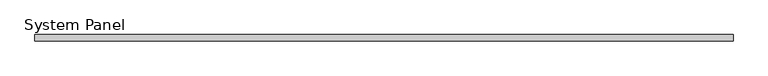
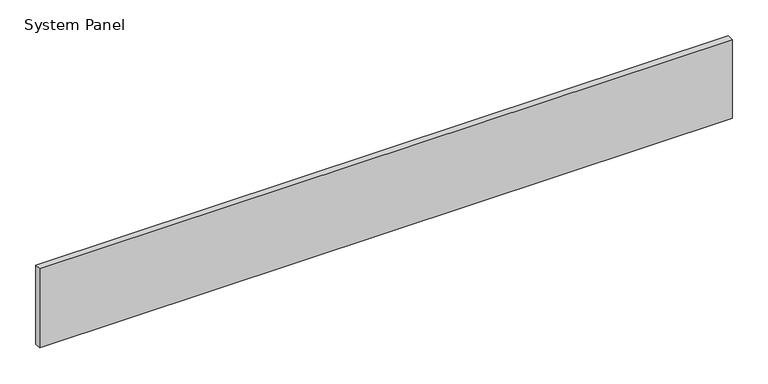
"""IFC4 building model written with IfcOpenShell, lengths in millimetres: plate geometry, System Panel : VACÍO."""

from ifc_helpers import new_model, si_unit, origin, origin_with_axes, place, context, project, spatial, polyline, outline, extrude, source, transform, mapped, element, save


def system_panel_9483af97(model_context):
    return source(origin(), model_context, "Body", "SweptSolid", [
        extrude(outline(polyline([(556.1350437, -5.0), (-556.1350437, -5.0), (-556.1350437, 5.0), (556.1350437, 5.0), (556.1350437, -5.0)])), origin_with_axes(), (0.0, 0.0, 1.0), 134.033564),
    ])


if __name__ == "__main__":
    model = new_model("IFC4")
    model_context = context("Model", 3, world=origin())
    ifc_project = project(units=[si_unit("LENGTHUNIT", "METRE", prefix="MILLI")], contexts=[model_context])
    site = spatial("IfcSite", under=ifc_project)
    building = spatial("IfcBuilding", under=site)
    placement = place(None, origin())
    system_panel_shape = system_panel_9483af97(model_context)
    element("IfcPlate", 1, ObjectType="System Panel : VACÍO", at=placement, inside=building, context=model_context, shape_type="MappedRepresentation", body=[
        mapped(system_panel_shape, transform((0.0, 0.0, 0.0), x_axis=(1.0, 0.0, 0.0), y_axis=(0.0, 1.0, 0.0), z_axis=(0.0, 0.0, 1.0))),
    ])
    save(model, "model.ifc")
